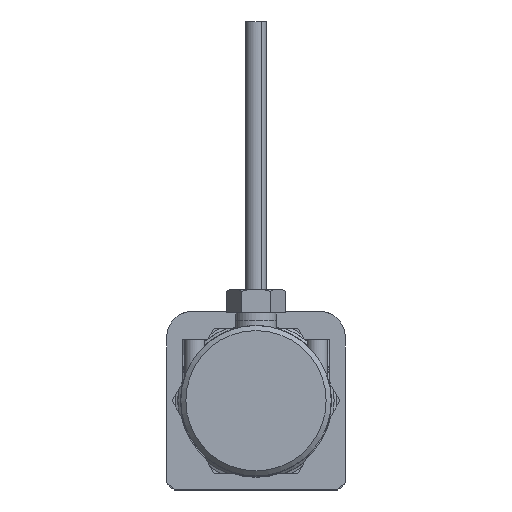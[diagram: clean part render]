
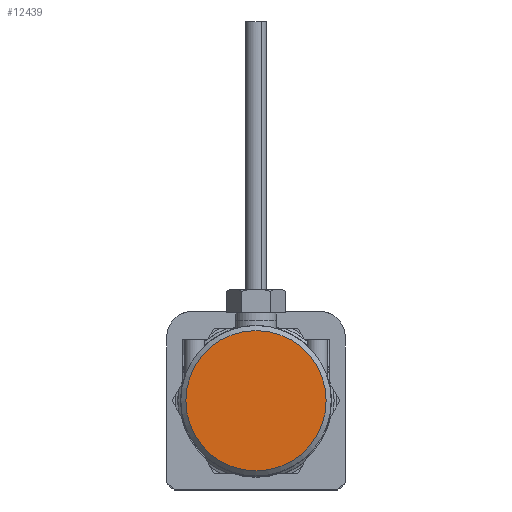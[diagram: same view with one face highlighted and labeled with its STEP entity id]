
A CAD part, front view. The second image highlights one B-rep face of the part: STEP entity #12439.
In plain terms, the highlighted planar face has unit normal (0, -1, 0) as drawn and (-1, 0, 0) by its records, which use the part's own axes.
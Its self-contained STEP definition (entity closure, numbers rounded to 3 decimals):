
#666=PLANE('',#13360);
#2099=CIRCLE('',#13361,13.75);
#2932=ORIENTED_EDGE('',*,*,#6217,.T.);
#6217=EDGE_CURVE('',#7905,#7905,#2099,.T.);
#7905=VERTEX_POINT('',#21186);
#9417=EDGE_LOOP('',(#2932));
#10337=FACE_BOUND('',#9417,.T.);
#12439=ADVANCED_FACE('',(#10337),#666,.T.);
#13360=AXIS2_PLACEMENT_3D('',#21184,#14693,#14694);
#13361=AXIS2_PLACEMENT_3D('',#21185,#14695,#14696);
#14693=DIRECTION('',(-1.,0.,0.));
#14694=DIRECTION('',(0.,-1.,0.));
#14695=DIRECTION('',(-1.,0.,0.));
#14696=DIRECTION('',(0.,-1.,0.));
#21184=CARTESIAN_POINT('',(0.,0.,0.));
#21185=CARTESIAN_POINT('',(0.,0.,0.));
#21186=CARTESIAN_POINT('',(0.,-13.75,0.));
